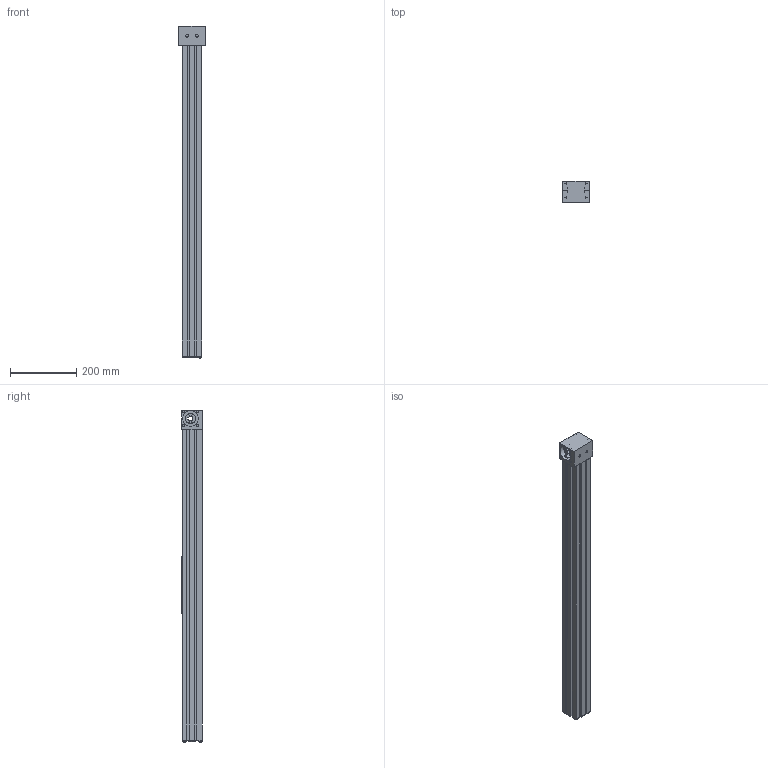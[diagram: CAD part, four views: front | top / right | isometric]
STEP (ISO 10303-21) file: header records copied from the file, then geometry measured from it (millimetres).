
FILE_DESCRIPTION (( 'STEP AP214' ), '1' );
FILE_NAME ('LLN60.STEP', '2022-06-24T08:53:39', ( '' ), ( '' ), 'SwSTEP 2.0', 'SolidWorks 2020', '' );
FILE_SCHEMA (( 'AUTOMOTIVE_DESIGN' ));
Length unit declared in the file: millimetre
Products named in the file (5): carriage^LLN60_carriage version 0; LLN60; end plate^LLN60; timing belt reverse unit^LLN60_2x coupling claw; profile^LLN60
Assembly tree (4 placements, depth 2):
  LLN60
    profile^LLN60
    carriage^LLN60_carriage version 0
    timing belt reverse unit^LLN60_2x coupling claw
    end plate^LLN60
Bounding box: 80 x 63 x 999.96 mm (x, y, z)
Volume: 2676369.4 mm3; surface area: 559042.6 mm2
Topology: 6 solids, 6 shells, 539 faces, 1386 edges, 896 vertices
Faces by surface type: plane 387, cylinder 104, cone 32, bspline 16
Entity records: 18317 total; most frequent: CARTESIAN_POINT 4612, ORIENTED_EDGE 2724, DIRECTION 2610, EDGE_CURVE 1362, VECTOR 1086, LINE 1086, VERTEX_POINT 896, AXIS2_PLACEMENT_3D 762
